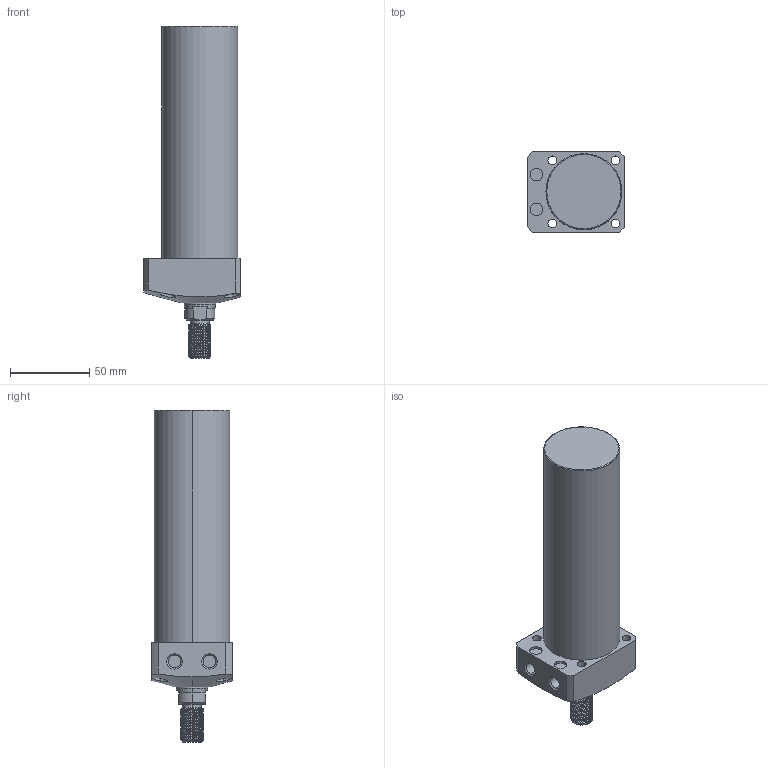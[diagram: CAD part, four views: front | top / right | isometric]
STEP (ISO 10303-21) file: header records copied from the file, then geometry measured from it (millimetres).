
FILE_DESCRIPTION (( 'STEP AP203' ), '1' );
FILE_NAME ('CLL-048CT-120.STEP', '2020-01-08T10:14:12', ( '' ), ( '' ), 'SwSTEP 2.0', 'SolidWorks 2015', '' );
FILE_SCHEMA (( 'CONFIG_CONTROL_DESIGN' ));
Length unit declared in the file: millimetre
Products named in the file (1): CLL-048CT-120
Bounding box: 61 x 51 x 210 mm (x, y, z)
Volume: 345002.8 mm3; surface area: 38216.6 mm2
Topology: 1 solids, 1 shells, 122 faces, 310 edges, 201 vertices
Faces by surface type: cylinder 77, plane 24, cone 17, torus 2, bspline 2
Entity records: 6482 total; most frequent: CARTESIAN_POINT 3681, ORIENTED_EDGE 620, DIRECTION 522, EDGE_CURVE 310, AXIS2_PLACEMENT_3D 206, VERTEX_POINT 201, EDGE_LOOP 141, ADVANCED_FACE 122
